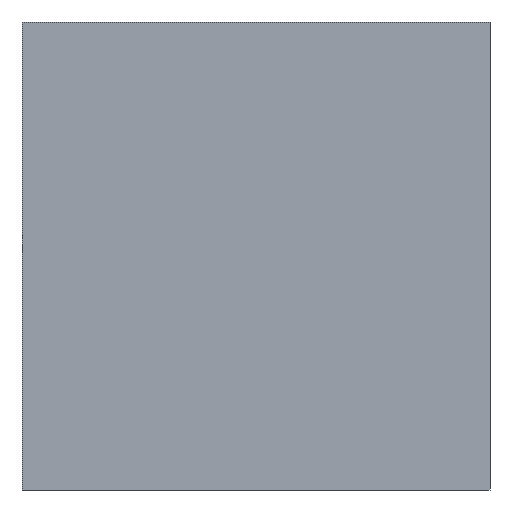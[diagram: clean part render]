
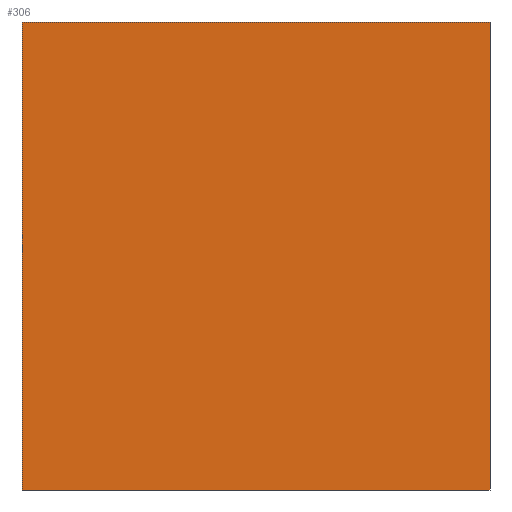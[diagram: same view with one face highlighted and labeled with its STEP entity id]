
A CAD part, front view. The second image highlights one B-rep face of the part: STEP entity #306.
In plain terms, the highlighted planar face has unit normal (0, -1, 0).
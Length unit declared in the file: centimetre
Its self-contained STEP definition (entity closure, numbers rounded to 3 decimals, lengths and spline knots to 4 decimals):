
#41 = EDGE_CURVE ( 'NONE', #494, #63, #354, .T. ) ;
#48 = EDGE_LOOP ( 'NONE', ( #205, #514, #602, #594 ) ) ;
#52 = VECTOR ( 'NONE', #432, 100. ) ;
#63 = VERTEX_POINT ( 'NONE', #77 ) ;
#64 = VECTOR ( 'NONE', #577, 100. ) ;
#71 = CARTESIAN_POINT ( 'NONE',  ( 0., 0., 1000. ) ) ;
#72 = LINE ( 'NONE', #145, #270 ) ;
#77 = CARTESIAN_POINT ( 'NONE',  ( 1000., 0., 1000. ) ) ;
#145 = CARTESIAN_POINT ( 'NONE',  ( 0., 0., 1000. ) ) ;
#148 = LINE ( 'NONE', #427, #52 ) ;
#191 = EDGE_CURVE ( 'NONE', #494, #685, #72, .T. ) ;
#205 = ORIENTED_EDGE ( 'NONE', *, *, #426, .T. ) ;
#215 = CARTESIAN_POINT ( 'NONE',  ( 0., 0., 1000. ) ) ;
#223 = VECTOR ( 'NONE', #709, 100. ) ;
#270 = VECTOR ( 'NONE', #408, 100. ) ;
#279 = CARTESIAN_POINT ( 'NONE',  ( 0., 0., 0. ) ) ;
#280 = CARTESIAN_POINT ( 'NONE',  ( 0., 0., 1000. ) ) ;
#288 = CARTESIAN_POINT ( 'NONE',  ( 1000., 0., 1000. ) ) ;
#289 = EDGE_CURVE ( 'NONE', #63, #356, #337, .T. ) ;
#306 = ADVANCED_FACE ( 'NONE', ( #599 ), #706, .F. ) ;
#337 = LINE ( 'NONE', #288, #223 ) ;
#354 = LINE ( 'NONE', #71, #64 ) ;
#356 = VERTEX_POINT ( 'NONE', #589 ) ;
#408 = DIRECTION ( 'NONE',  ( 0., 0., -1. ) ) ;
#411 = AXIS2_PLACEMENT_3D ( 'NONE', #215, #436, #653 ) ;
#426 = EDGE_CURVE ( 'NONE', #685, #356, #148, .T. ) ;
#427 = CARTESIAN_POINT ( 'NONE',  ( 0., 0., 0. ) ) ;
#432 = DIRECTION ( 'NONE',  ( 1., 0., 0. ) ) ;
#436 = DIRECTION ( 'NONE',  ( 0., 1., 0. ) ) ;
#494 = VERTEX_POINT ( 'NONE', #280 ) ;
#514 = ORIENTED_EDGE ( 'NONE', *, *, #289, .F. ) ;
#577 = DIRECTION ( 'NONE',  ( 1., 0., 0. ) ) ;
#589 = CARTESIAN_POINT ( 'NONE',  ( 1000., 0., 0. ) ) ;
#594 = ORIENTED_EDGE ( 'NONE', *, *, #191, .T. ) ;
#599 = FACE_OUTER_BOUND ( 'NONE', #48, .T. ) ;
#602 = ORIENTED_EDGE ( 'NONE', *, *, #41, .F. ) ;
#653 = DIRECTION ( 'NONE',  ( 0., 0., 1. ) ) ;
#685 = VERTEX_POINT ( 'NONE', #279 ) ;
#706 = PLANE ( 'NONE',  #411 ) ;
#709 = DIRECTION ( 'NONE',  ( 0., 0., -1. ) ) ;
